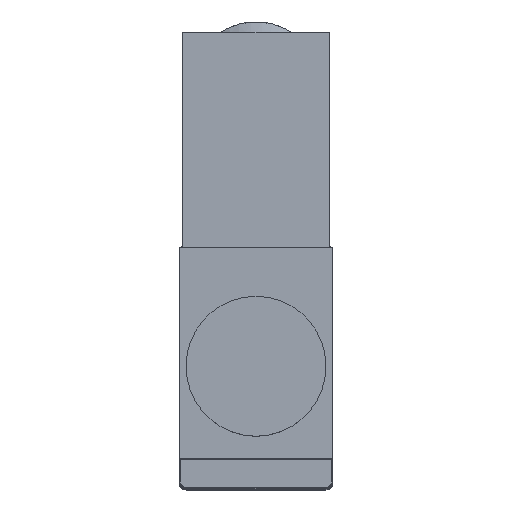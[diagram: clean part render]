
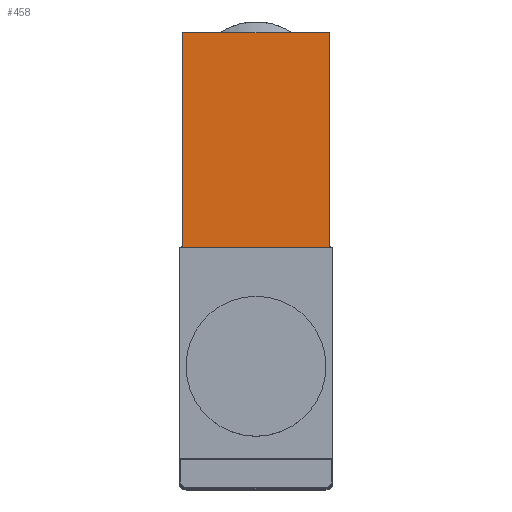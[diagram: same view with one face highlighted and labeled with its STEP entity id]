
A CAD part, top view. The second image highlights one B-rep face of the part: STEP entity #458.
In plain terms, the highlighted planar face has unit normal (0, 0, 1).
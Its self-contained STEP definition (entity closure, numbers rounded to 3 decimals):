
#458 = ADVANCED_FACE( '', ( #985 ), #986, .F. );
#985 = FACE_OUTER_BOUND( '', #1518, .T. );
#986 = PLANE( '', #1519 );
#1518 = EDGE_LOOP( '', ( #2729, #2730, #2731, #2732 ) );
#1519 = AXIS2_PLACEMENT_3D( '', #2733, #2734, #2735 );
#2729 = ORIENTED_EDGE( '', *, *, #3169, .F. );
#2730 = ORIENTED_EDGE( '', *, *, #3001, .F. );
#2731 = ORIENTED_EDGE( '', *, *, #2961, .F. );
#2732 = ORIENTED_EDGE( '', *, *, #3299, .T. );
#2733 = CARTESIAN_POINT( '', ( -10.5, 47.7, 103.7 ) );
#2734 = DIRECTION( '', ( 0., 0., -1. ) );
#2735 = DIRECTION( '', ( -1., 0., 0. ) );
#2961 = EDGE_CURVE( '', #3535, #3537, #3538, .T. );
#3001 = EDGE_CURVE( '', #3537, #3601, #3604, .T. );
#3169 = EDGE_CURVE( '', #3601, #3848, #3850, .T. );
#3299 = EDGE_CURVE( '', #3535, #3848, #4011, .T. );
#3535 = VERTEX_POINT( '', #4348 );
#3537 = VERTEX_POINT( '', #4351 );
#3538 = LINE( '', #4352, #4353 );
#3601 = VERTEX_POINT( '', #4432 );
#3604 = LINE( '', #4437, #4438 );
#3848 = VERTEX_POINT( '', #4781 );
#3850 = LINE( '', #4784, #4785 );
#4011 = LINE( '', #4982, #4983 );
#4348 = CARTESIAN_POINT( '', ( -10.5, 47.7, 103.7 ) );
#4351 = CARTESIAN_POINT( '', ( 10.5, 47.7, 103.7 ) );
#4352 = CARTESIAN_POINT( '', ( -10.5, 47.7, 103.7 ) );
#4353 = VECTOR( '', #5164, 1000. );
#4432 = CARTESIAN_POINT( '', ( 10.5, 17., 103.7 ) );
#4437 = CARTESIAN_POINT( '', ( 10.5, 47.7, 103.7 ) );
#4438 = VECTOR( '', #5219, 1000. );
#4781 = CARTESIAN_POINT( '', ( -10.5, 17., 103.7 ) );
#4784 = CARTESIAN_POINT( '', ( 0., 17., 103.7 ) );
#4785 = VECTOR( '', #5442, 1000. );
#4982 = CARTESIAN_POINT( '', ( -10.5, 47.7, 103.7 ) );
#4983 = VECTOR( '', #5569, 1000. );
#5164 = DIRECTION( '', ( 1., 0., 0. ) );
#5219 = DIRECTION( '', ( 0., -1., 0. ) );
#5442 = DIRECTION( '', ( -1., 0., 0. ) );
#5569 = DIRECTION( '', ( 0., -1., 0. ) );
